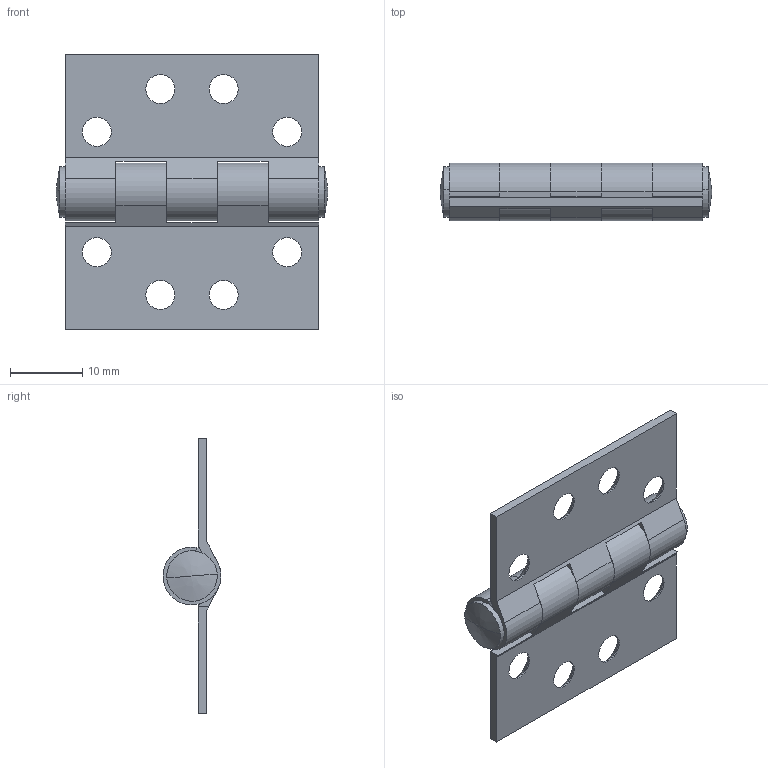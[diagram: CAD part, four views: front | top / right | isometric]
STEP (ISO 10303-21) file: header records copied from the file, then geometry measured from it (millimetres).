
FILE_DESCRIPTION (( 'STEP AP203' ), '1' );
FILE_NAME ('SBF35BZ_1.STEP', '2020-05-27T14:43:51', ( '' ), ( '' ), 'SwSTEP 2.0', 'SolidWorks 2016', '' );
FILE_SCHEMA (( 'CONFIG_CONTROL_DESIGN' ));
Length unit declared in the file: millimetre
Products named in the file (4): SBF35BZ; SBF35BZ_Cover_2; SBF35BZ_1; PinSBF35BZ
Assembly tree (3 placements, depth 2):
  SBF35BZ_1
    SBF35BZ_Cover_2
    SBF35BZ
    PinSBF35BZ
Bounding box: 37.46 x 8 x 38 mm (x, y, z)
Volume: 3063.8 mm3; surface area: 4717.4 mm2
Topology: 3 solids, 3 shells, 109 faces, 285 edges, 180 vertices
Faces by surface type: cylinder 52, plane 37, cone 16, bspline 4
Entity records: 3817 total; most frequent: CARTESIAN_POINT 628, DIRECTION 623, ORIENTED_EDGE 562, EDGE_CURVE 281, AXIS2_PLACEMENT_3D 235, VERTEX_POINT 180, LINE 153, VECTOR 153
